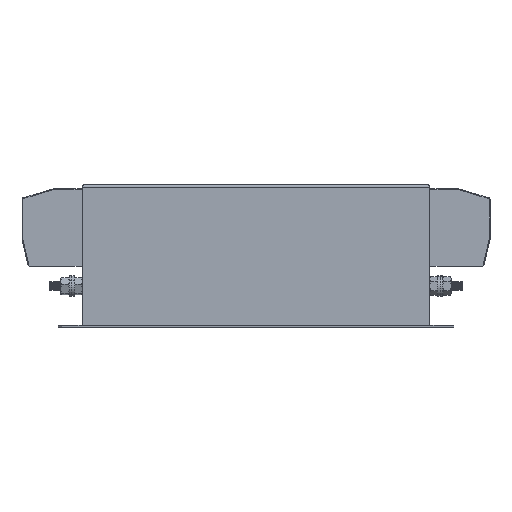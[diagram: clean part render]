
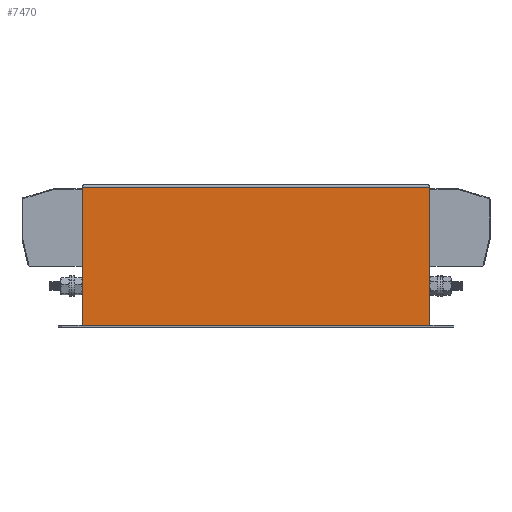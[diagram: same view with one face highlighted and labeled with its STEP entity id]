
A CAD part, top view. The second image highlights one B-rep face of the part: STEP entity #7470.
In plain terms, the highlighted planar face has unit normal (0, 0, 1).
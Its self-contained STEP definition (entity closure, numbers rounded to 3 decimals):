
#2783 = CARTESIAN_POINT ( 'NONE',  ( 15., 1.2, 1.2 ) ) ;
#2784 = CARTESIAN_POINT ( 'NONE',  ( 235., 1.2, 1.2 ) ) ;
#2786 = LINE ( 'NONE', #2848, #2847 ) ;
#2826 = CARTESIAN_POINT ( 'NONE',  ( 235., 88.5, 1.2 ) ) ;
#2827 = DIRECTION ( 'NONE',  ( 0., -1., 0. ) ) ;
#2828 = VECTOR ( 'NONE', #2827, 1000. ) ;
#2829 = CARTESIAN_POINT ( 'NONE',  ( 235., 90., 1.2 ) ) ;
#2830 = LINE ( 'NONE', #2829, #2828 ) ;
#2831 = DIRECTION ( 'NONE',  ( -1., 0., 0. ) ) ;
#2832 = DIRECTION ( 'NONE',  ( 0., 0., -1. ) ) ;
#2833 = CARTESIAN_POINT ( 'NONE',  ( 15., 90., 1.2 ) ) ;
#2834 = AXIS2_PLACEMENT_3D ( 'NONE', #2833, #2832, #2831 ) ;
#2835 = PLANE ( 'NONE',  #2834 ) ;
#2836 = FACE_OUTER_BOUND ( 'NONE', #7471, .T. ) ;
#2845 = CARTESIAN_POINT ( 'NONE',  ( 15., 88.5, 1.2 ) ) ;
#2846 = DIRECTION ( 'NONE',  ( 0., -1., 0. ) ) ;
#2847 = VECTOR ( 'NONE', #2846, 1000. ) ;
#2848 = CARTESIAN_POINT ( 'NONE',  ( 15., 90., 1.2 ) ) ;
#2864 = DIRECTION ( 'NONE',  ( 1., 0., 0. ) ) ;
#2865 = VECTOR ( 'NONE', #2864, 1000. ) ;
#2866 = CARTESIAN_POINT ( 'NONE',  ( 15., 1.2, 1.2 ) ) ;
#2867 = LINE ( 'NONE', #2866, #2865 ) ;
#2934 = DIRECTION ( 'NONE',  ( -1., 0., 0. ) ) ;
#2935 = VECTOR ( 'NONE', #2934, 1000. ) ;
#2936 = CARTESIAN_POINT ( 'NONE',  ( 15., 88.5, 1.2 ) ) ;
#2937 = LINE ( 'NONE', #2936, #2935 ) ;
#7428 = VERTEX_POINT ( 'NONE', #2784 ) ;
#7429 = VERTEX_POINT ( 'NONE', #2783 ) ;
#7462 = EDGE_CURVE ( 'NONE', #7463, #7429, #2786, .T. ) ;
#7463 = VERTEX_POINT ( 'NONE', #2845 ) ;
#7470 = ADVANCED_FACE ( 'NONE', ( #2836 ), #2835, .F. ) ;
#7471 = EDGE_LOOP ( 'NONE', ( #7472, #7519, #7521, #7522 ) ) ;
#7472 = ORIENTED_EDGE ( 'NONE', *, *, #7473, .F. ) ;
#7473 = EDGE_CURVE ( 'NONE', #7474, #7428, #2830, .T. ) ;
#7474 = VERTEX_POINT ( 'NONE', #2826 ) ;
#7489 = EDGE_CURVE ( 'NONE', #7429, #7428, #2867, .T. ) ;
#7519 = ORIENTED_EDGE ( 'NONE', *, *, #7520, .T. ) ;
#7520 = EDGE_CURVE ( 'NONE', #7474, #7463, #2937, .T. ) ;
#7521 = ORIENTED_EDGE ( 'NONE', *, *, #7462, .T. ) ;
#7522 = ORIENTED_EDGE ( 'NONE', *, *, #7489, .T. ) ;
